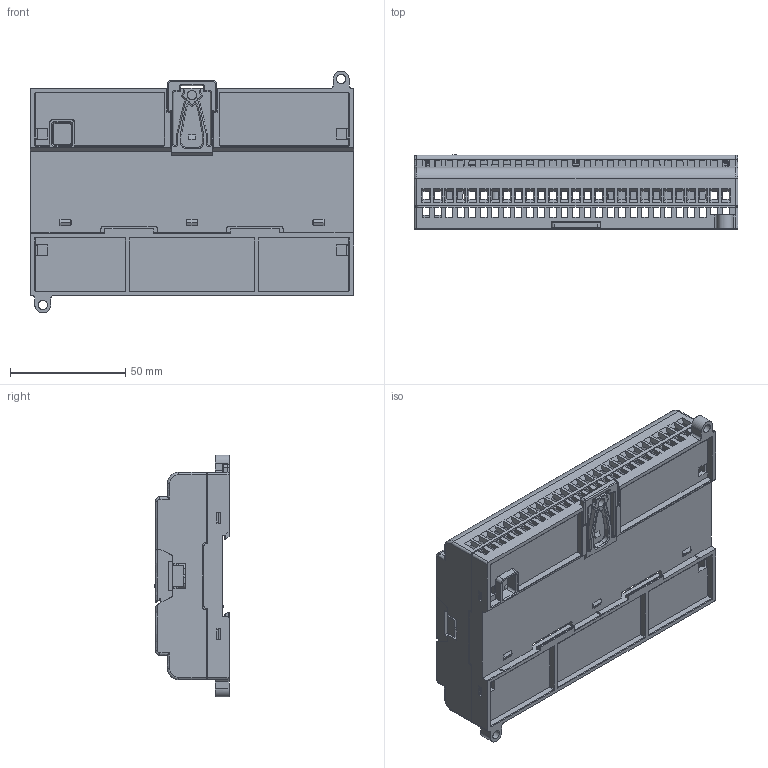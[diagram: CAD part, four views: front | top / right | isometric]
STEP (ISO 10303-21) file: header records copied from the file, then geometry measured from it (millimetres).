
FILE_DESCRIPTION(/* description */ (''),/* implementation_level */ '2;1');
FILE_NAME(/* name */ 'b1-40m-slim-20210609',/* time_stamp */ '2021-12-10T04:16:03+08:00',/* author */ (''),/* organization */ (''),/* preprocessor_version */ 'ST-DEVELOPER v16.5',/* originating_system */ '',/* authorisation */ '');
FILE_SCHEMA (('AUTOMOTIVE_DESIGN'));
Products named in the file (6): Document; JOIN; B1-NEW-40M-DOWN_COVER; CV_PS; B1-40M-IO2_COVER; B1-NEW-40M-UP_COVER
Assembly tree (5 placements, depth 2):
  Document
    JOIN
    B1-NEW-40M-DOWN_COVER
    CV_PS
    B1-40M-IO2_COVER
    B1-NEW-40M-UP_COVER
Bounding box: 140.4 x 32.15 x 104.99 mm (x, y, z)
Volume: 80019.7 mm3; surface area: 104878.8 mm2
Topology: 5 solids, 5 shells, 3116 faces, 9185 edges, 5958 vertices
Faces by surface type: plane 2494, bspline 622
Entity records: 106812 total; most frequent: CARTESIAN_POINT 46734, ORIENTED_EDGE 18370, EDGE_CURVE 9185, B_SPLINE_CURVE_WITH_KNOTS 8315, VERTEX_POINT 5958, EDGE_LOOP 3715, ADVANCED_FACE 3116, FACE_OUTER_BOUND 3116
